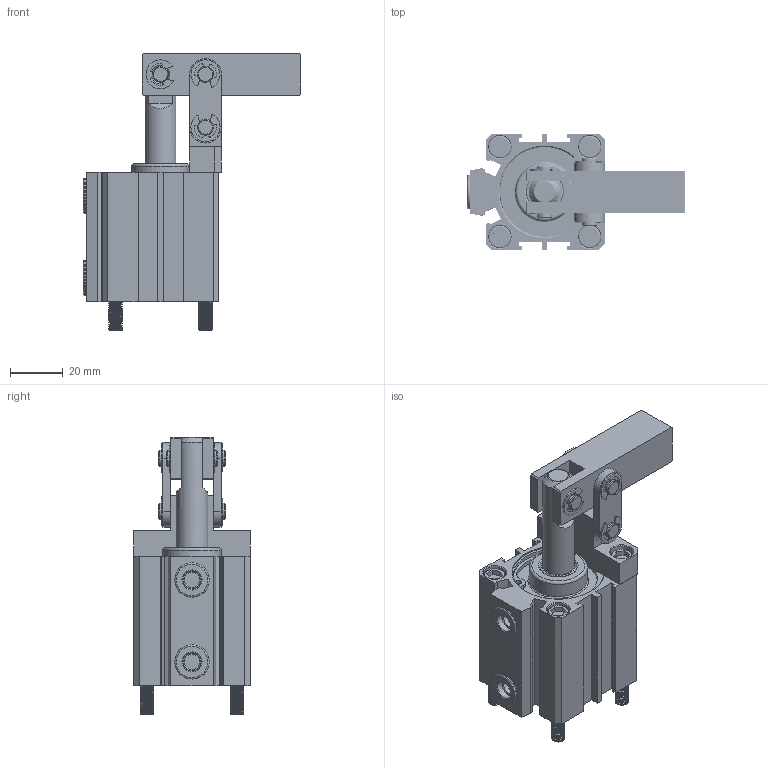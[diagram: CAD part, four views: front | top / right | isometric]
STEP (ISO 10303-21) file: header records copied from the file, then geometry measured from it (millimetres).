
FILE_DESCRIPTION(/* description */ ('STEP AP203'),/* implementation_level */ '2;1');
FILE_NAME(/* name */ 'E:\SERWER_ZAPAS\Pneumatic\CALC PNEUMATIC LEVERAGE BEZ MS\CALC-32\CALC-32_ZAMKNIETY.stp',/* time_stamp */ '2019-02-07T11:00:47+01:00',/* author */ ('Admin'),/* organization */ ('Î¢ÈíÖÐ¹ú'),/* preprocessor_version */ 'ST-DEVELOPER v17.2',/* originating_system */ 'Autodesk Inventor 2019',/* authorisation */ '');
FILE_SCHEMA (('AUTOMOTIVE_DESIGN { 1 0 10303 214 3 1 1 }'));
Length unit declared in the file: millimetre
Products named in the file (17): CALC-32_ZAMKNIETY; ¶ÌÏú; ºó¸Ç; ³¤Ïú; ¸ÕÌ×; Ñ¹±Û; »îÈû¸Ë; Á¬¸ËÖ§³Å×ù; Ç°¸Ç; ms321ÂÝ1; ±¾Ìå; »îÈû; Á¬¸Ë; ¸Ë¿¨3211; 1-8¶ÂÍ·MS32; Áã¼þ133; ¿¨»É
Assembly tree (27 placements, depth 2):
  CALC-32_ZAMKNIETY
    ¸Ë¿¨3211  x2
    ¶ÌÏú
    ºó¸Ç
    ³¤Ïú  x2
    Á¬¸Ë  x2
    ¿¨»É  x6
    ¸ÕÌ×
    Ñ¹±Û
    1-8¶ÂÍ·MS32  x2
    »îÈû¸Ë
    Á¬¸ËÖ§³Å×ù
    ms321ÂÝ1  x2
    Áã¼þ133  x2
    Ç°¸Ç
    ±¾Ìå
    »îÈû
Bounding box: 82.2 x 44 x 105 mm (x, y, z)
Volume: 86041.7 mm3; surface area: 59294 mm2
Topology: 27 solids, 27 shells, 768 faces, 2144 edges, 1493 vertices
Faces by surface type: cylinder 359, plane 283, torus 68, cone 37, bspline 21
Full cylindrical faces by diameter (mm): 2 x2, 2.5 x4, 5 x120, 5.2 x2, 5.202 x4, 5.5 x6, 6 x18, 7 x4, 8 x19, 8.5 x10, 8.7 x2, 9 x1, 10 x6, 12 x3, 13 x3, 14 x2, 14.8 x1, 16 x1, 19 x2, 20 x1, 22 x1, 23 x1, 24 x1, 25 x1, 26 x1, 26.2 x1, 27 x2, 30.6 x1, 30.8 x1, 31.5 x2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
Entity records: 34946 total; most frequent: CARTESIAN_POINT 21035, DIRECTION 2828, ORIENTED_EDGE 2798, EDGE_CURVE 1399, AXIS2_PLACEMENT_3D 1129, VERTEX_POINT 985, CIRCLE 594, EDGE_LOOP 590
